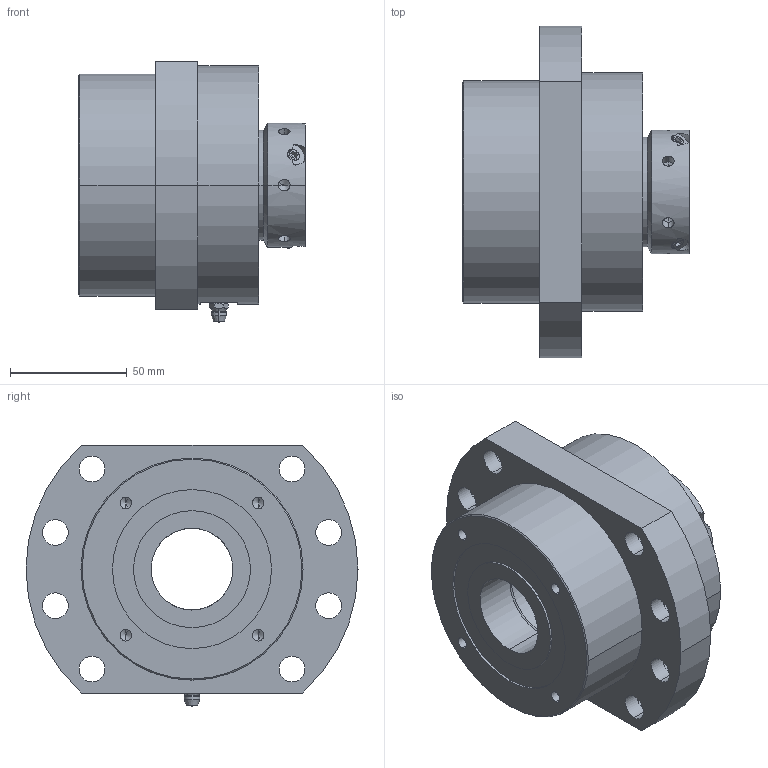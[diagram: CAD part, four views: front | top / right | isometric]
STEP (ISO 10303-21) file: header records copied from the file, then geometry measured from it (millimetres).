
FILE_DESCRIPTION (( 'STEP AP203' ), '1' );
FILE_NAME ('SWBK35G-DF.STEP', '2018-09-15T05:04:43', ( '' ), ( '' ), 'SwSTEP 2.0', 'SolidWorks 2015', '' );
FILE_SCHEMA (( 'CONFIG_CONTROL_DESIGN' ));
Length unit declared in the file: millimetre
Products named in the file (1): SWBK35G-DF
Bounding box: 97 x 142 x 111.9 mm (x, y, z)
Volume: 572028.9 mm3; surface area: 145496.2 mm2
Topology: 29 solids, 41 shells, 695 faces, 1671 edges, 955 vertices
Faces by surface type: cylinder 240, plane 199, cone 119, bspline 101, torus 36
Entity records: 22511 total; most frequent: CARTESIAN_POINT 7364, DIRECTION 3253, ORIENTED_EDGE 3002, EDGE_CURVE 1501, AXIS2_PLACEMENT_3D 1344, VERTEX_POINT 955, EDGE_LOOP 804, CIRCLE 749
